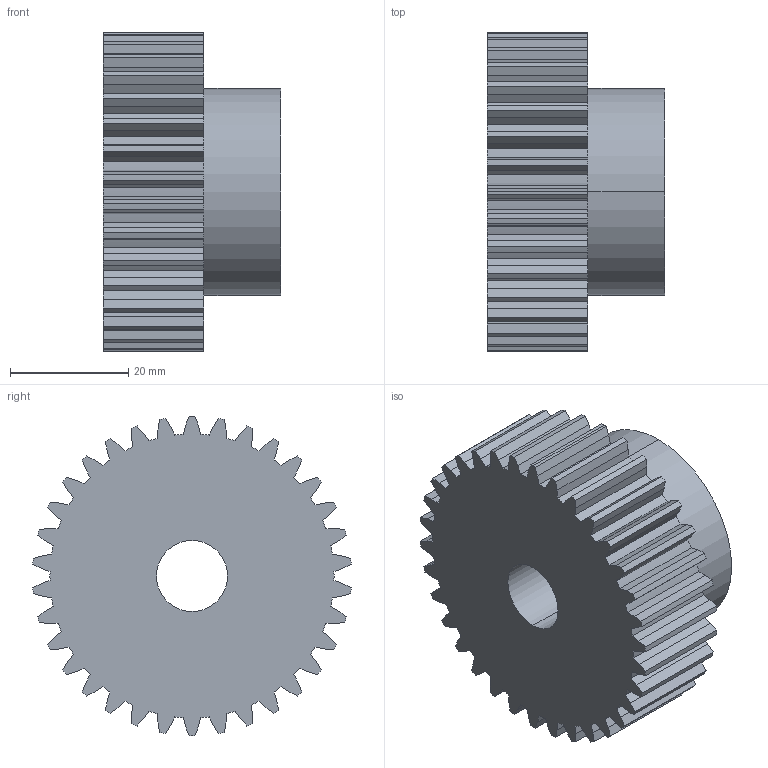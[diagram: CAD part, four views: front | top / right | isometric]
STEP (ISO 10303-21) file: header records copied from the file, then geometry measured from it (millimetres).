
FILE_DESCRIPTION (( 'STEP AP203' ), '1' );
FILE_NAME ('PM 27034.STEP', '2013-09-24T10:12:49', ( '' ), ( '' ), 'SwSTEP 2.0', 'SolidWorks 2010', '' );
FILE_SCHEMA (( 'CONFIG_CONTROL_DESIGN' ));
Length unit declared in the file: millimetre
Products named in the file (1): PM 27034
Bounding box: 30 x 53.85 x 54 mm (x, y, z)
Volume: 43460.5 mm3; surface area: 11505.1 mm2
Topology: 1 solids, 1 shells, 212 faces, 627 edges, 418 vertices
Faces by surface type: plane 139, cylinder 73
Entity records: 7160 total; most frequent: CARTESIAN_POINT 1264, ORIENTED_EDGE 1254, DIRECTION 1197, EDGE_CURVE 627, VECTOR 479, LINE 479, VERTEX_POINT 418, AXIS2_PLACEMENT_3D 359
